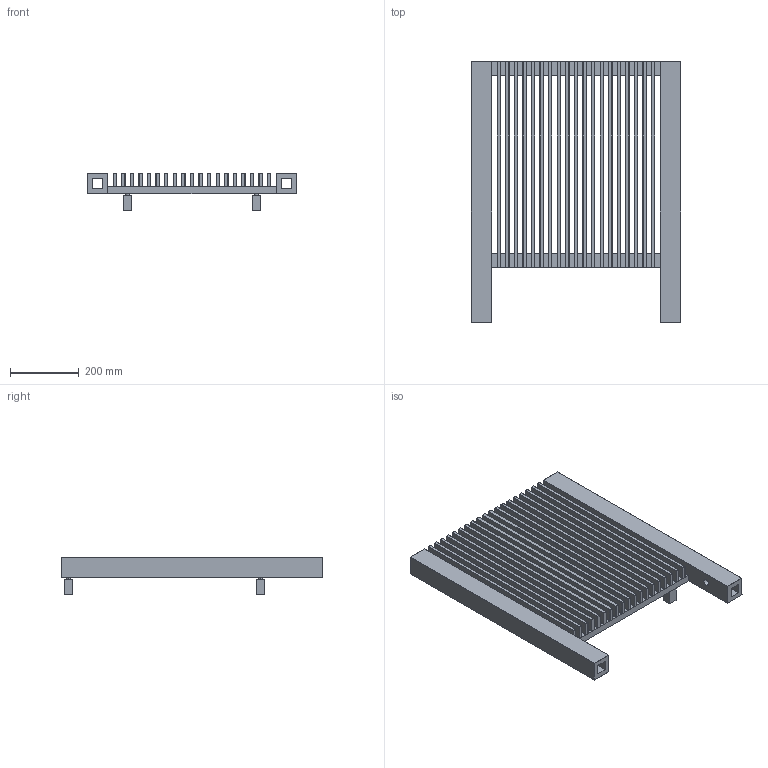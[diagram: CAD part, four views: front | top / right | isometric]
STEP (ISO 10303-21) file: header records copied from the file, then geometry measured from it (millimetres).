
FILE_DESCRIPTION (( 'STEP AP214' ), '1' );
FILE_NAME ('FUTURA.STEP', '2020-08-25T08:48:50', ( 'termosan' ), ( '' ), 'SwSTEP 2.0', 'SolidWorks 2009', '' );
FILE_SCHEMA (( 'AUTOMOTIVE_DESIGN' ));
Length unit declared in the file: millimetre
Products named in the file (3): FUTURA; P. ZAGA GÖVDE
Assembly tree (5 placements, depth 2):
  FUTURA
    P. ZAGA GÖVDE  x4
    FUTURA
Bounding box: 610 x 760 x 110.5 mm (x, y, z)
Volume: 9516417.1 mm3; surface area: 1858781.5 mm2
Topology: 31 solids, 31 shells, 597 faces, 1304 edges, 647 vertices
Faces by surface type: cylinder 282, plane 190, sphere 122, torus 3
Entity records: 14014 total; most frequent: DIRECTION 2553, CARTESIAN_POINT 2417, ORIENTED_EDGE 2130, EDGE_CURVE 1065, AXIS2_PLACEMENT_3D 985, LINE 583, VECTOR 583, EDGE_LOOP 572
